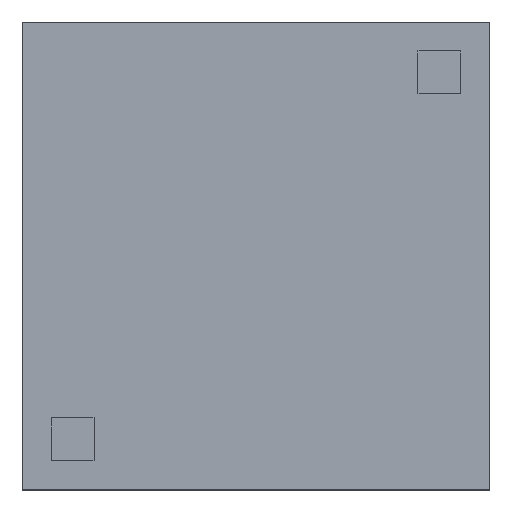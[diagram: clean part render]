
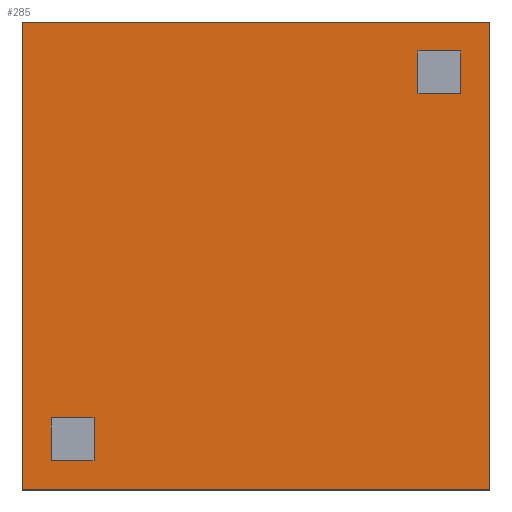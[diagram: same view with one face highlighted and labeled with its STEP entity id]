
A CAD part, top view. The second image highlights one B-rep face of the part: STEP entity #285.
In plain terms, the highlighted planar face has unit normal (0, 0, 1).
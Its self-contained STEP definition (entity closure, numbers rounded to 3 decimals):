
#27=FACE_OUTER_BOUND('',#45,.T.);
#45=EDGE_LOOP('',(#219,#220,#221,#222));
#67=LINE('',#439,#103);
#71=LINE('',#447,#107);
#74=LINE('',#453,#110);
#75=LINE('',#454,#111);
#103=VECTOR('',#363,10.);
#107=VECTOR('',#369,10.);
#110=VECTOR('',#374,10.);
#111=VECTOR('',#375,10.);
#135=VERTEX_POINT('',#437);
#136=VERTEX_POINT('',#438);
#139=VERTEX_POINT('',#446);
#141=VERTEX_POINT('',#452);
#163=EDGE_CURVE('',#135,#136,#67,.T.);
#167=EDGE_CURVE('',#139,#136,#71,.T.);
#170=EDGE_CURVE('',#141,#135,#74,.T.);
#171=EDGE_CURVE('',#139,#141,#75,.T.);
#219=ORIENTED_EDGE('',*,*,#170,.F.);
#220=ORIENTED_EDGE('',*,*,#171,.F.);
#221=ORIENTED_EDGE('',*,*,#167,.T.);
#222=ORIENTED_EDGE('',*,*,#163,.F.);
#267=PLANE('',#325);
#285=ADVANCED_FACE('',(#27),#267,.T.);
#325=AXIS2_PLACEMENT_3D('',#451,#372,#373);
#363=DIRECTION('',(1.,0.,0.));
#369=DIRECTION('',(0.,1.,0.));
#372=DIRECTION('center_axis',(0.,0.,1.));
#373=DIRECTION('ref_axis',(1.,0.,0.));
#374=DIRECTION('',(0.,1.,0.));
#375=DIRECTION('',(-1.,0.,0.));
#437=CARTESIAN_POINT('',(0.,1.09,0.4));
#438=CARTESIAN_POINT('',(1.09,1.09,0.4));
#439=CARTESIAN_POINT('',(0.,1.09,0.4));
#446=CARTESIAN_POINT('',(1.09,0.,0.4));
#447=CARTESIAN_POINT('',(1.09,0.,0.4));
#451=CARTESIAN_POINT('Origin',(0.545,-0.001,0.4));
#452=CARTESIAN_POINT('',(0.,0.,0.4));
#453=CARTESIAN_POINT('',(0.,0.,0.4));
#454=CARTESIAN_POINT('',(1.09,0.,0.4));
